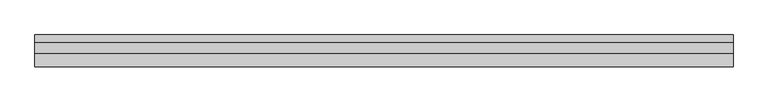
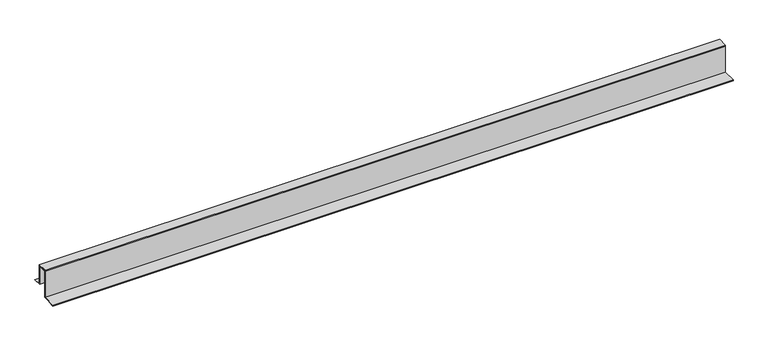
"""IFC4 building model written with IfcOpenShell, lengths in millimetres: proxy geometry, АК7_1 бок Обрамление оконного_дверного проема : АК7_1 бок Обрамление оконного_дверного проема."""

from ifc_helpers import new_model, si_unit, frame, origin, place, context, project, spatial, polyline, outline, extrude, source, transform, mapped, element, save


def generic_models_0b12393e(model_context):
    return source(origin(), model_context, "Body", "SweptSolid", [
        extrude(outline(polyline([(-12.5, 25.0), (-12.5, -35.9999552), (10.5, -35.9999552), (10.5, -36.9999552), (-13.5, -36.9999552), (-13.5, 24.0), (-41.5, 24.0), (-41.5, 23.0), (-27.5, 23.0), (-27.5, 22.0), (-42.5, 22.0), (-42.5, 25.0), (-12.5, 25.0)])), frame((0.0, 0.0, 0.0), z_axis=(1.0, 0.0, 0.0), x_axis=(0.0, 1.0, 0.0)), (0.0, 0.0, 1.0), 2024.9979284),
        extrude(outline(polyline([(-42.5, -60.0), (-42.5, 22.0), (-17.5, 22.0), (-17.5, 21.0), (-41.5, 21.0), (-41.5, -61.0), (-81.5, -61.0), (-81.5, -62.0), (-62.5, -62.0), (-62.5, -63.0), (-82.5, -63.0), (-82.5, -60.0), (-42.5, -60.0)])), frame((0.0, 0.0, 0.0), z_axis=(1.0, 0.0, 0.0), x_axis=(0.0, 1.0, 0.0)), (0.0, 0.0, 1.0), 2024.9979284),
    ])


if __name__ == "__main__":
    model = new_model("IFC4")
    model_context = context("Model", 3, world=origin())
    ifc_project = project(units=[si_unit("LENGTHUNIT", "METRE", prefix="MILLI")], contexts=[model_context])
    site = spatial("IfcSite", under=ifc_project)
    building = spatial("IfcBuilding", under=site)
    placement = place(None, origin())
    generic_models_shape = generic_models_0b12393e(model_context)
    element("IfcBuildingElementProxy", 1, Name="АК7_1 бок Обрамление оконного_дверного проема : АК7_1 бок Обрамление оконного_дверного проема", ObjectType="АК7_1 бок Обрамление оконного_дверного проема : АК7_1 бок Обрамление оконного_дверного проема", at=placement, inside=building, context=model_context, shape_type="MappedRepresentation", body=[
        mapped(generic_models_shape, transform((0.0, 0.0, 0.0), x_axis=(1.0, 0.0, 0.0), y_axis=(0.0, 1.0, 0.0), z_axis=(0.0, 0.0, 1.0))),
    ])
    save(model, "model.ifc")
